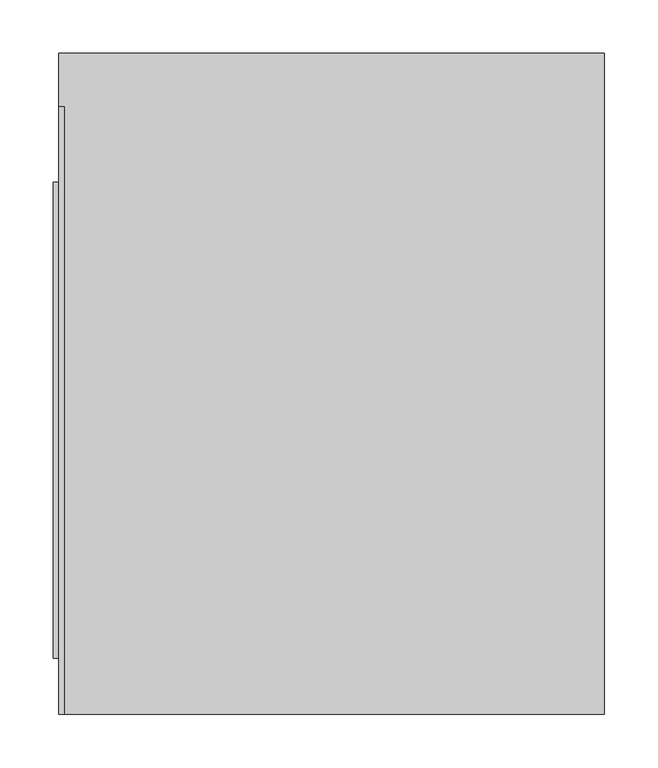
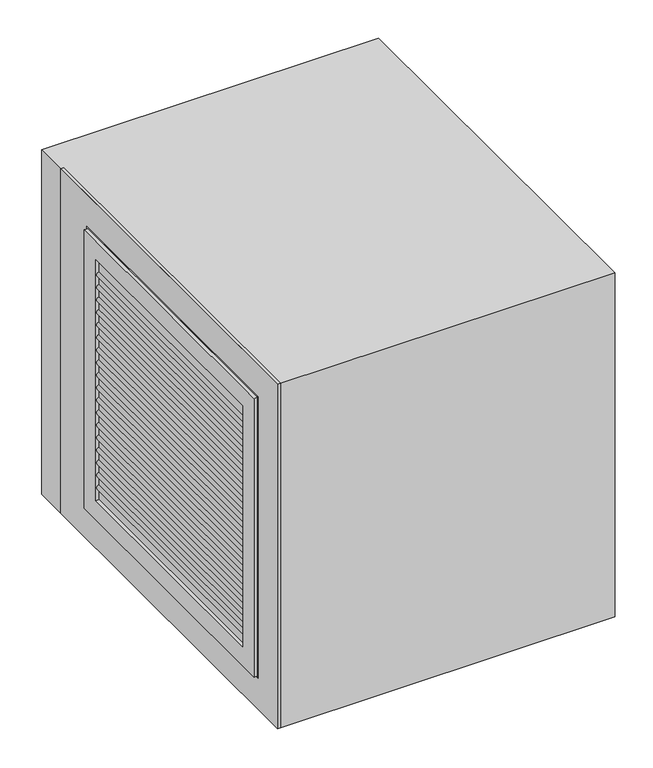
"""IFC4 building model written with IfcOpenShell, lengths in millimetres: damper geometry, КлапанДымовой_LVDW : КлапанДымовой_LVDW."""

from ifc_helpers import new_model, si_unit, point, frame, frame_2d, origin, place, context, project, spatial, polyline, circle_curve, trimmed, segment, composite_curve, outline, extrude, faceted_brep, source, transform, mapped, element, save


def damper_d4565087(model_context):
    return source(origin(), model_context, "Body", "SolidModel", [
        extrude(outline(composite_curve([segment(polyline([(166.3333333, -134.5), (168.6666667, -134.5), (169.8333333, -147.391254)]), True, "CONTINUOUS"), segment(trimmed(circle_curve(frame_2d((167.5, -150.0)), 3.5), [point((169.8333333, -147.391254))], [point((165.1666667, -147.391254))], False, "CARTESIAN"), True, "CONTINUOUS"), segment(polyline([(165.1666667, -147.391254), (166.3333333, -134.5)]), True, "CONTINUOUS")], self_intersect=False)), frame((0.0, -192.5, 0.0), z_axis=(0.0, 1.0, 0.0), x_axis=(0.0, 0.0, 1.0)), (0.0, 0.0, 1.0), 385.0),
        extrude(outline(composite_curve([segment(polyline([(146.3333333, -134.5), (148.6666667, -134.5), (149.8333333, -147.391254)]), True, "CONTINUOUS"), segment(trimmed(circle_curve(frame_2d((147.5, -150.0)), 3.5), [point((149.8333333, -147.391254))], [point((145.1666667, -147.391254))], False, "CARTESIAN"), True, "CONTINUOUS"), segment(polyline([(145.1666667, -147.391254), (146.3333333, -134.5)]), True, "CONTINUOUS")], self_intersect=False)), frame((0.0, -192.5, 0.0), z_axis=(0.0, 1.0, 0.0), x_axis=(0.0, 0.0, 1.0)), (0.0, 0.0, 1.0), 385.0),
        extrude(outline(composite_curve([segment(polyline([(126.3333333, -134.5), (128.6666667, -134.5), (129.8333333, -147.391254)]), True, "CONTINUOUS"), segment(trimmed(circle_curve(frame_2d((127.5, -150.0)), 3.5), [point((129.8333333, -147.391254))], [point((125.1666667, -147.391254))], False, "CARTESIAN"), True, "CONTINUOUS"), segment(polyline([(125.1666667, -147.391254), (126.3333333, -134.5)]), True, "CONTINUOUS")], self_intersect=False)), frame((0.0, -192.5, 0.0), z_axis=(0.0, 1.0, 0.0), x_axis=(0.0, 0.0, 1.0)), (0.0, 0.0, 1.0), 385.0),
        extrude(outline(composite_curve([segment(polyline([(106.3333333, -134.5), (108.6666667, -134.5), (109.8333333, -147.391254)]), True, "CONTINUOUS"), segment(trimmed(circle_curve(frame_2d((107.5, -150.0)), 3.5), [point((109.8333333, -147.391254))], [point((105.1666667, -147.391254))], False, "CARTESIAN"), True, "CONTINUOUS"), segment(polyline([(105.1666667, -147.391254), (106.3333333, -134.5)]), True, "CONTINUOUS")], self_intersect=False)), frame((0.0, -192.5, 0.0), z_axis=(0.0, 1.0, 0.0), x_axis=(0.0, 0.0, 1.0)), (0.0, 0.0, 1.0), 385.0),
        extrude(outline(composite_curve([segment(polyline([(86.3333333, -134.5), (88.6666667, -134.5), (89.8333333, -147.391254)]), True, "CONTINUOUS"), segment(trimmed(circle_curve(frame_2d((87.5, -150.0)), 3.5), [point((89.8333333, -147.391254))], [point((85.1666667, -147.391254))], False, "CARTESIAN"), True, "CONTINUOUS"), segment(polyline([(85.1666667, -147.391254), (86.3333333, -134.5)]), True, "CONTINUOUS")], self_intersect=False)), frame((0.0, -192.5, 0.0), z_axis=(0.0, 1.0, 0.0), x_axis=(0.0, 0.0, 1.0)), (0.0, 0.0, 1.0), 385.0),
        extrude(outline(composite_curve([segment(polyline([(66.3333333, -134.5), (68.6666667, -134.5), (69.8333333, -147.391254)]), True, "CONTINUOUS"), segment(trimmed(circle_curve(frame_2d((67.5, -150.0)), 3.5), [point((69.8333333, -147.391254))], [point((65.1666667, -147.391254))], False, "CARTESIAN"), True, "CONTINUOUS"), segment(polyline([(65.1666667, -147.391254), (66.3333333, -134.5)]), True, "CONTINUOUS")], self_intersect=False)), frame((0.0, -192.5, 0.0), z_axis=(0.0, 1.0, 0.0), x_axis=(0.0, 0.0, 1.0)), (0.0, 0.0, 1.0), 385.0),
        extrude(outline(composite_curve([segment(polyline([(46.3333333, -134.5), (48.6666667, -134.5), (49.8333333, -147.391254)]), True, "CONTINUOUS"), segment(trimmed(circle_curve(frame_2d((47.5, -150.0)), 3.5), [point((49.8333333, -147.391254))], [point((45.1666667, -147.391254))], False, "CARTESIAN"), True, "CONTINUOUS"), segment(polyline([(45.1666667, -147.391254), (46.3333333, -134.5)]), True, "CONTINUOUS")], self_intersect=False)), frame((0.0, -192.5, 0.0), z_axis=(0.0, 1.0, 0.0), x_axis=(0.0, 0.0, 1.0)), (0.0, 0.0, 1.0), 385.0),
        extrude(outline(composite_curve([segment(polyline([(26.3333333, -134.5), (28.6666667, -134.5), (29.8333333, -147.391254)]), True, "CONTINUOUS"), segment(trimmed(circle_curve(frame_2d((27.5, -150.0)), 3.5), [point((29.8333333, -147.391254))], [point((25.1666667, -147.391254))], False, "CARTESIAN"), True, "CONTINUOUS"), segment(polyline([(25.1666667, -147.391254), (26.3333333, -134.5)]), True, "CONTINUOUS")], self_intersect=False)), frame((0.0, -192.5, 0.0), z_axis=(0.0, 1.0, 0.0), x_axis=(0.0, 0.0, 1.0)), (0.0, 0.0, 1.0), 385.0),
        extrude(outline(composite_curve([segment(polyline([(6.3333333, -134.5), (8.6666667, -134.5), (9.8333333, -147.391254)]), True, "CONTINUOUS"), segment(trimmed(circle_curve(frame_2d((7.5, -150.0)), 3.5), [point((9.8333333, -147.391254))], [point((5.1666667, -147.391254))], False, "CARTESIAN"), True, "CONTINUOUS"), segment(polyline([(5.1666667, -147.391254), (6.3333333, -134.5)]), True, "CONTINUOUS")], self_intersect=False)), frame((0.0, -192.5, 0.0), z_axis=(0.0, 1.0, 0.0), x_axis=(0.0, 0.0, 1.0)), (0.0, 0.0, 1.0), 385.0),
        extrude(outline(composite_curve([segment(polyline([(-13.6666667, -134.5), (-11.3333333, -134.5), (-10.1666667, -147.391254)]), True, "CONTINUOUS"), segment(trimmed(circle_curve(frame_2d((-12.5, -150.0)), 3.5), [point((-10.1666667, -147.391254))], [point((-14.8333333, -147.391254))], False, "CARTESIAN"), True, "CONTINUOUS"), segment(polyline([(-14.8333333, -147.391254), (-13.6666667, -134.5)]), True, "CONTINUOUS")], self_intersect=False)), frame((0.0, -192.5, 0.0), z_axis=(0.0, 1.0, 0.0), x_axis=(0.0, 0.0, 1.0)), (0.0, 0.0, 1.0), 385.0),
        extrude(outline(composite_curve([segment(polyline([(-33.6666667, -134.5), (-31.3333333, -134.5), (-30.1666667, -147.391254)]), True, "CONTINUOUS"), segment(trimmed(circle_curve(frame_2d((-32.5, -150.0)), 3.5), [point((-30.1666667, -147.391254))], [point((-34.8333333, -147.391254))], False, "CARTESIAN"), True, "CONTINUOUS"), segment(polyline([(-34.8333333, -147.391254), (-33.6666667, -134.5)]), True, "CONTINUOUS")], self_intersect=False)), frame((0.0, -192.5, 0.0), z_axis=(0.0, 1.0, 0.0), x_axis=(0.0, 0.0, 1.0)), (0.0, 0.0, 1.0), 385.0),
        extrude(outline(composite_curve([segment(polyline([(-53.6666667, -134.5), (-51.3333333, -134.5), (-50.1666667, -147.391254)]), True, "CONTINUOUS"), segment(trimmed(circle_curve(frame_2d((-52.5, -150.0)), 3.5), [point((-50.1666667, -147.391254))], [point((-54.8333333, -147.391254))], False, "CARTESIAN"), True, "CONTINUOUS"), segment(polyline([(-54.8333333, -147.391254), (-53.6666667, -134.5)]), True, "CONTINUOUS")], self_intersect=False)), frame((0.0, -192.5, 0.0), z_axis=(0.0, 1.0, 0.0), x_axis=(0.0, 0.0, 1.0)), (0.0, 0.0, 1.0), 385.0),
        extrude(outline(composite_curve([segment(polyline([(-73.6666667, -134.5), (-71.3333333, -134.5), (-70.1666667, -147.391254)]), True, "CONTINUOUS"), segment(trimmed(circle_curve(frame_2d((-72.5, -150.0)), 3.5), [point((-70.1666667, -147.391254))], [point((-74.8333333, -147.391254))], False, "CARTESIAN"), True, "CONTINUOUS"), segment(polyline([(-74.8333333, -147.391254), (-73.6666667, -134.5)]), True, "CONTINUOUS")], self_intersect=False)), frame((0.0, -192.5, 0.0), z_axis=(0.0, 1.0, 0.0), x_axis=(0.0, 0.0, 1.0)), (0.0, 0.0, 1.0), 385.0),
        extrude(outline(composite_curve([segment(polyline([(-93.6666667, -134.5), (-91.3333333, -134.5), (-90.1666667, -147.391254)]), True, "CONTINUOUS"), segment(trimmed(circle_curve(frame_2d((-92.5, -150.0)), 3.5), [point((-90.1666667, -147.391254))], [point((-94.8333333, -147.391254))], False, "CARTESIAN"), True, "CONTINUOUS"), segment(polyline([(-94.8333333, -147.391254), (-93.6666667, -134.5)]), True, "CONTINUOUS")], self_intersect=False)), frame((0.0, -192.5, 0.0), z_axis=(0.0, 1.0, 0.0), x_axis=(0.0, 0.0, 1.0)), (0.0, 0.0, 1.0), 385.0),
        extrude(outline(composite_curve([segment(polyline([(-113.6666667, -134.5), (-111.3333333, -134.5), (-110.1666667, -147.391254)]), True, "CONTINUOUS"), segment(trimmed(circle_curve(frame_2d((-112.5, -150.0)), 3.5), [point((-110.1666667, -147.391254))], [point((-114.8333333, -147.391254))], False, "CARTESIAN"), True, "CONTINUOUS"), segment(polyline([(-114.8333333, -147.391254), (-113.6666667, -134.5)]), True, "CONTINUOUS")], self_intersect=False)), frame((0.0, -192.5, 0.0), z_axis=(0.0, 1.0, 0.0), x_axis=(0.0, 0.0, 1.0)), (0.0, 0.0, 1.0), 385.0),
        extrude(outline(composite_curve([segment(polyline([(-133.6666667, -134.5), (-131.3333333, -134.5), (-130.1666667, -147.391254)]), True, "CONTINUOUS"), segment(trimmed(circle_curve(frame_2d((-132.5, -150.0)), 3.5), [point((-130.1666667, -147.391254))], [point((-134.8333333, -147.391254))], False, "CARTESIAN"), True, "CONTINUOUS"), segment(polyline([(-134.8333333, -147.391254), (-133.6666667, -134.5)]), True, "CONTINUOUS")], self_intersect=False)), frame((0.0, -192.5, 0.0), z_axis=(0.0, 1.0, 0.0), x_axis=(0.0, 0.0, 1.0)), (0.0, 0.0, 1.0), 385.0),
        extrude(outline(composite_curve([segment(polyline([(-153.6666667, -134.5), (-151.3333333, -134.5), (-150.1666667, -147.391254)]), True, "CONTINUOUS"), segment(trimmed(circle_curve(frame_2d((-152.5, -150.0)), 3.5), [point((-150.1666667, -147.391254))], [point((-154.8333333, -147.391254))], False, "CARTESIAN"), True, "CONTINUOUS"), segment(polyline([(-154.8333333, -147.391254), (-153.6666667, -134.5)]), True, "CONTINUOUS")], self_intersect=False)), frame((0.0, -192.5, 0.0), z_axis=(0.0, 1.0, 0.0), x_axis=(0.0, 0.0, 1.0)), (0.0, 0.0, 1.0), 385.0),
        extrude(outline(composite_curve([segment(polyline([(-173.6666667, -134.5), (-171.3333333, -134.5), (-170.1666667, -147.391254)]), True, "CONTINUOUS"), segment(trimmed(circle_curve(frame_2d((-172.5, -150.0)), 3.5), [point((-170.1666667, -147.391254))], [point((-174.8333333, -147.391254))], False, "CARTESIAN"), True, "CONTINUOUS"), segment(polyline([(-174.8333333, -147.391254), (-173.6666667, -134.5)]), True, "CONTINUOUS")], self_intersect=False)), frame((0.0, -192.5, 0.0), z_axis=(0.0, 1.0, 0.0), x_axis=(0.0, 0.0, 1.0)), (0.0, 0.0, 1.0), 385.0),
        faceted_brep([(-155.0, 222.5, 222.5), (-155.0, 222.5, -222.5), (-155.0, -222.5, -222.5), (-155.0, -222.5, 222.5), (-155.0, 192.5, 192.5), (-155.0, -192.5, 192.5), (-155.0, -192.5, -192.5), (-155.0, 192.5, -192.5), (-125.0, 200.0, 200.0), (-125.0, -200.0, 200.0), (-125.0, -200.0, -200.0), (-125.0, 200.0, -200.0), (-125.0, 192.5, 192.5), (-125.0, 192.5, -192.5), (-125.0, -192.5, -192.5), (-125.0, -192.5, 192.5), (-150.0, 222.5, 222.5), (-150.0, 222.5, -222.5), (-150.0, -222.5, -222.5), (-150.0, -222.5, 222.5), (-150.0, 200.0, 200.0), (-150.0, 200.0, -200.0), (-150.0, -200.0, -200.0), (-150.0, -200.0, 200.0)], [[[0, 1, 2, 3], [4, 5, 6, 7]], [[8, 9, 10, 11], [12, 13, 14, 15]], [[1, 0, 16, 17]], [[2, 1, 17, 18]], [[3, 2, 18, 19]], [[0, 3, 19, 16]], [[17, 16, 19, 18], [20, 21, 22, 23]], [[20, 23, 9, 8]], [[23, 22, 10, 9]], [[22, 21, 11, 10]], [[21, 20, 8, 11]], [[5, 4, 12, 15]], [[6, 5, 15, 14]], [[7, 6, 14, 13]], [[4, 7, 13, 12]]]),
        extrude(outline(polyline([(-275.0, 275.0), (293.0, 275.0), (293.0, -275.0), (-275.0, -275.0), (-275.0, 275.0)]), holes=[polyline([(-225.0, 225.0), (-225.0, -225.0), (225.0, -225.0), (225.0, 225.0), (-225.0, 225.0)])]), frame((-150.0, 0.0, 0.0), z_axis=(1.0, 0.0, 0.0), x_axis=(0.0, 1.0, 0.0)), (0.0, 0.0, 1.0), 5.0),
        extrude(outline(polyline([(70.0, 343.0), (70.0, 200.0), (-130.0, 200.0), (-130.0, 343.0), (70.0, 343.0)])), frame((0.0, 0.0, -52.0), z_axis=(0.0, 0.0, 1.0), x_axis=(1.0, 0.0, 0.0)), (0.0, 0.0, 1.0), 104.0),
        faceted_brep([(150.0, -225.0, 225.0), (150.0, -225.0, -225.0), (150.0, 225.0, -225.0), (150.0, 225.0, 225.0), (-150.0, -225.0, 225.0), (-150.0, 225.0, 225.0), (-150.0, 225.0, -225.0), (-150.0, -225.0, -225.0), (145.0, -225.0, 225.0), (145.0, -225.0, -225.0), (-145.0, -225.0, -225.0), (-145.0, -225.0, 225.0), (145.0, 225.0, -225.0), (-145.0, 225.0, -225.0), (145.0, 225.0, 225.0), (-145.0, 225.0, 225.0), (145.0, 200.0, 200.0), (145.0, -200.0, 200.0), (145.0, -200.0, -200.0), (145.0, 200.0, -200.0), (-145.0, 200.0, 200.0), (-145.0, 200.0, -200.0), (-145.0, -200.0, -200.0), (-145.0, -200.0, 200.0)], [[[0, 1, 2, 3]], [[4, 5, 6, 7]], [[1, 0, 8, 9]], [[4, 7, 10, 11]], [[2, 1, 9, 12]], [[7, 6, 13, 10]], [[3, 2, 12, 14]], [[6, 5, 15, 13]], [[0, 3, 14, 8]], [[5, 4, 11, 15]], [[9, 8, 14, 12], [16, 17, 18, 19]], [[11, 10, 13, 15], [20, 21, 22, 23]], [[16, 19, 21, 20]], [[19, 18, 22, 21]], [[18, 17, 23, 22]], [[17, 16, 20, 23]]]),
        extrude(outline(polyline([(360.0, 343.0), (360.0, -275.0), (-150.0, -275.0), (-150.0, 343.0), (360.0, 343.0)])), frame((0.0, 0.0, -275.0), z_axis=(0.0, 0.0, 1.0), x_axis=(1.0, 0.0, 0.0)), (0.0, 0.0, 1.0), 550.0),
    ])


if __name__ == "__main__":
    model = new_model("IFC4")
    model_context = context("Model", 3, world=origin())
    ifc_project = project(units=[si_unit("LENGTHUNIT", "METRE", prefix="MILLI")], contexts=[model_context])
    site = spatial("IfcSite", under=ifc_project)
    building = spatial("IfcBuilding", under=site)
    placement = place(None, origin())
    damper_shape = damper_d4565087(model_context)
    element("IfcDamper", 1, ObjectType="КлапанДымовой_LVDW : КлапанДымовой_LVDW", at=placement, inside=building, context=model_context, shape_type="MappedRepresentation", body=[
        mapped(damper_shape, transform((0.0, 0.0, 0.0), x_axis=(1.0, 0.0, 0.0), y_axis=(0.0, 1.0, 0.0), z_axis=(0.0, 0.0, 1.0))),
    ])
    save(model, "model.ifc")
